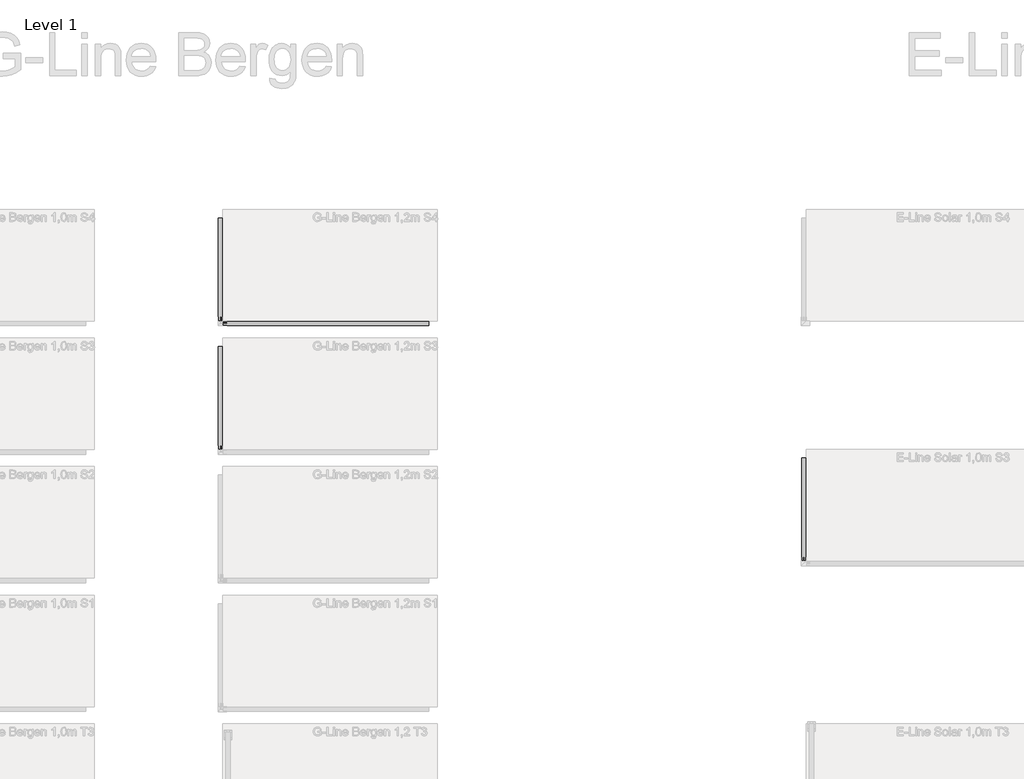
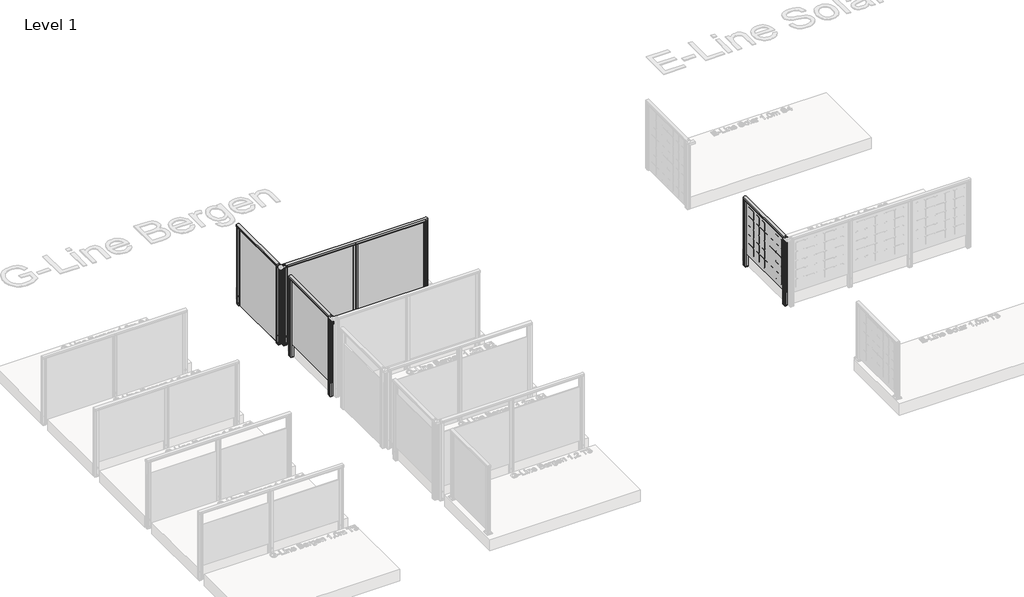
# One storey, part 29 of 66: 4 railings.
"""IFC4 building model written with IfcOpenShell, lengths in millimetres."""

from ifc_helpers import new_model, si_unit, point, frame, frame_2d, origin, place, context, project, spatial, polyline, circle_curve, trimmed, segment, composite_curve, outline, extrude, element, save

model = new_model("IFC4")

# Units and contexts
model_context = context("Model", 3, world=origin())
ifc_project = project(units=[si_unit("LENGTHUNIT", "METRE", prefix="MILLI")], contexts=[model_context])

# Site, building, storey
site = spatial("IfcSite", under=ifc_project)
building = spatial("IfcBuilding", under=site)
storey = spatial("IfcBuildingStorey", under=building, Name="Level 1", Elevation=0.0)

# Railings
placement = place(None, origin())
element("IfcRailing", 1, ObjectType="G-Line Bergen 1,2m S3", at=placement, inside=storey, context=model_context, shape_type="SweptSolid", body=[
    extrude(outline(composite_curve([segment(trimmed(circle_curve(frame_2d((1142.6785502, 8465.8109342)), 57.3235687), [point((1194.1390059, 8491.0658945))], [point((1194.1342258, 8440.5462362))], False, "CARTESIAN"), True, "CONTINUOUS"), segment(polyline([(1194.1342258, 8440.5462362), (1167.0235023, 8440.5462362), (1166.4415706, 8441.128168), (1165.8194895, 8440.5060869), (1157.2498847, 8440.5060869), (1157.2498847, 8442.3110398), (1180.4998829, 8442.3110398), (1180.4998829, 8489.306086), (1157.2498847, 8489.306086), (1157.2498847, 8491.0658945), (1165.9694895, 8491.0658945), (1166.5842725, 8490.4511115), (1167.1990555, 8491.0658945), (1194.1390059, 8491.0658945)]), True, "CONTINUOUS")], self_intersect=False)), frame((0.0, 1523.8815979, 0.0), z_axis=(0.0, 1.0, 0.0), x_axis=(0.0, 0.0, 1.0)), (0.0, 0.0, 1.0), 1195.0),
    extrude(outline(polyline([(8462.1463105, 2718.8815979), (8470.9063105, 2718.8815979), (8470.9063105, 1523.8815979), (8462.1463105, 1523.8815979), (8462.1463105, 2718.8815979)])), frame((0.0, 0.0, 28.0), z_axis=(0.0, 0.0, 1.0), x_axis=(1.0, 0.0, 0.0)), (0.0, 0.0, 1.0), 1152.0),
    extrude(outline(polyline([(8470.8721725, 1523.883191), (8470.8747497, 1541.3831908), (8462.1147498, 1541.3844809), (8462.1121726, 1523.8844811), (8444.0573652, 1523.88714), (8444.0616532, 1553.004127), (8444.9400753, 1553.8822904), (8444.021743, 1554.9201583), (8444.0260089, 1583.8871452), (8462.1210087, 1583.8844804), (8462.1184315, 1566.3844806), (8470.8784314, 1566.3831905), (8470.8810086, 1583.8831903), (8488.9859597, 1583.880524), (8488.9816865, 1554.8640485), (8487.9932969, 1553.87595), (8489.0214382, 1552.8475058), (8489.0171723, 1523.8805188), (8470.8721725, 1523.883191)]), holes=[polyline([(8446.0202949, 1562.6808129), (8446.0202949, 1545.0868512), (8487.0228863, 1545.0868512), (8487.0228863, 1562.6808129), (8446.0202949, 1562.6808129)]), polyline([(8472.878181, 1581.8808127), (8472.878181, 1564.682896), (8487.0257139, 1564.682896), (8487.0257139, 1581.8808127), (8472.878181, 1581.8808127)]), polyline([(8446.0202949, 1581.884775), (8446.0202949, 1564.6868513), (8460.1207142, 1564.6868513), (8460.1207142, 1581.884775), (8446.0202949, 1581.884775)]), polyline([(8472.872467, 1543.0808132), (8472.872467, 1525.8828965), (8487.0199999, 1525.8828965), (8487.0199999, 1543.0808132), (8472.872467, 1543.0808132)]), polyline([(8445.9674673, 1543.0847754), (8445.9674673, 1525.8868587), (8460.1150002, 1525.8868587), (8460.1150002, 1543.0847754), (8445.9674673, 1543.0847754)])]), frame((0.0, 0.0, -200.0), z_axis=(0.0, 0.0, 1.0), x_axis=(1.0, 0.0, 0.0)), (0.0, 0.0, 1.0), 1381.0),
    extrude(outline(polyline([(8470.8721725, 1523.883191), (8470.8747497, 1541.3831908), (8462.1147498, 1541.3844809), (8462.1121726, 1523.8844811), (8444.0573652, 1523.88714), (8444.0616532, 1553.004127), (8444.9400753, 1553.8822904), (8444.021743, 1554.9201583), (8444.0260089, 1583.8871452), (8462.1210087, 1583.8844804), (8462.1184315, 1566.3844806), (8470.8784314, 1566.3831905), (8470.8810086, 1583.8831903), (8488.9859597, 1583.880524), (8488.9816865, 1554.8640485), (8487.9932969, 1553.87595), (8489.0214382, 1552.8475058), (8489.0171723, 1523.8805188), (8470.8721725, 1523.883191)])), frame((0.0, 0.0, -202.0233958), z_axis=(0.0, 0.0, 1.0), x_axis=(1.0, 0.0, 0.0)), (0.0, 0.0, 1.0), 2.0),
    extrude(outline(composite_curve([segment(trimmed(circle_curve(frame_2d((0.0, 12.0)), 12.0), [point((0.0, 23.9999999))], [point((0.0, 0.0))], False, "CARTESIAN"), True, "CONTINUOUS"), segment(trimmed(circle_curve(frame_2d((0.0, 12.0)), 12.0), [point((0.0, 0.0))], [point((0.0, 23.9999999))], False, "CARTESIAN"), True, "CONTINUOUS")], self_intersect=False)), frame((8444.0668454, 1565.8906355, -175.0), z_axis=(-0.9999999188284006, 0.0004029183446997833, 0.0), x_axis=(0.0, 0.0, -1.0)), (0.0, 0.0, 1.0), 3.0757477),
    extrude(outline(composite_curve([segment(trimmed(circle_curve(frame_2d((0.0, 12.0)), 12.0), [point((0.0, 23.9999999))], [point((0.0, 0.0))], False, "CARTESIAN"), True, "CONTINUOUS"), segment(trimmed(circle_curve(frame_2d((0.0, 12.0)), 12.0), [point((0.0, 0.0))], [point((0.0, 23.9999999))], False, "CARTESIAN"), True, "CONTINUOUS")], self_intersect=False)), frame((8444.0668454, 1565.8906355, -50.0), z_axis=(-0.9999999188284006, 0.0004029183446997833, 0.0), x_axis=(0.0, 0.0, -1.0)), (0.0, 0.0, 1.0), 3.0757477),
    extrude(outline(polyline([(8470.8721725, 2658.883191), (8470.8747497, 2676.3831908), (8462.1147498, 2676.3844809), (8462.1121726, 2658.8844811), (8444.0573652, 2658.88714), (8444.0616532, 2688.004127), (8444.9400753, 2688.8822904), (8444.021743, 2689.9201583), (8444.0260089, 2718.8871452), (8462.1210087, 2718.8844804), (8462.1184315, 2701.3844806), (8470.8784314, 2701.3831905), (8470.8810086, 2718.8831903), (8488.9859597, 2718.880524), (8488.9816865, 2689.8640485), (8487.9932969, 2688.87595), (8489.0214382, 2687.8475058), (8489.0171723, 2658.8805188), (8470.8721725, 2658.883191)]), holes=[polyline([(8446.0202949, 2697.6808129), (8446.0202949, 2680.0868512), (8487.0228863, 2680.0868512), (8487.0228863, 2697.6808129), (8446.0202949, 2697.6808129)]), polyline([(8472.878181, 2716.8808127), (8472.878181, 2699.682896), (8487.0257139, 2699.682896), (8487.0257139, 2716.8808127), (8472.878181, 2716.8808127)]), polyline([(8446.0202949, 2716.884775), (8446.0202949, 2699.6868513), (8460.1207142, 2699.6868513), (8460.1207142, 2716.884775), (8446.0202949, 2716.884775)]), polyline([(8472.872467, 2678.0808132), (8472.872467, 2660.8828965), (8487.0199999, 2660.8828965), (8487.0199999, 2678.0808132), (8472.872467, 2678.0808132)]), polyline([(8445.9674673, 2678.0847754), (8445.9674673, 2660.8868587), (8460.1150002, 2660.8868587), (8460.1150002, 2678.0847754), (8445.9674673, 2678.0847754)])]), frame((0.0, 0.0, -200.0), z_axis=(0.0, 0.0, 1.0), x_axis=(1.0, 0.0, 0.0)), (0.0, 0.0, 1.0), 1381.0),
    extrude(outline(polyline([(8470.8721725, 2658.883191), (8470.8747497, 2676.3831908), (8462.1147498, 2676.3844809), (8462.1121726, 2658.8844811), (8444.0573652, 2658.88714), (8444.0616532, 2688.004127), (8444.9400753, 2688.8822904), (8444.021743, 2689.9201583), (8444.0260089, 2718.8871452), (8462.1210087, 2718.8844804), (8462.1184315, 2701.3844806), (8470.8784314, 2701.3831905), (8470.8810086, 2718.8831903), (8488.9859597, 2718.880524), (8488.9816865, 2689.8640485), (8487.9932969, 2688.87595), (8489.0214382, 2687.8475058), (8489.0171723, 2658.8805188), (8470.8721725, 2658.883191)])), frame((0.0, 0.0, -202.0233958), z_axis=(0.0, 0.0, 1.0), x_axis=(1.0, 0.0, 0.0)), (0.0, 0.0, 1.0), 2.0),
    extrude(outline(composite_curve([segment(trimmed(circle_curve(frame_2d((0.0, 12.0)), 12.0), [point((0.0, 23.9999999))], [point((0.0, 0.0))], False, "CARTESIAN"), True, "CONTINUOUS"), segment(trimmed(circle_curve(frame_2d((0.0, 12.0)), 12.0), [point((0.0, 0.0))], [point((0.0, 23.9999999))], False, "CARTESIAN"), True, "CONTINUOUS")], self_intersect=False)), frame((8444.0668454, 2700.8906355, -175.0), z_axis=(-0.9999999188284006, 0.0004029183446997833, 0.0), x_axis=(0.0, 0.0, -1.0)), (0.0, 0.0, 1.0), 3.0757477),
    extrude(outline(composite_curve([segment(trimmed(circle_curve(frame_2d((0.0, 12.0)), 12.0), [point((0.0, 23.9999999))], [point((0.0, 0.0))], False, "CARTESIAN"), True, "CONTINUOUS"), segment(trimmed(circle_curve(frame_2d((0.0, 12.0)), 12.0), [point((0.0, 0.0))], [point((0.0, 23.9999999))], False, "CARTESIAN"), True, "CONTINUOUS")], self_intersect=False)), frame((8444.0668454, 2700.8906355, -50.0), z_axis=(-0.9999999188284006, 0.0004029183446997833, 0.0), x_axis=(0.0, 0.0, -1.0)), (0.0, 0.0, 1.0), 3.0757477),
])
element("IfcRailing", 2, ObjectType="G-Line Bergen 1,2m S4", at=placement, inside=storey, context=model_context, shape_type="SweptSolid", body=[
    extrude(outline(composite_curve([segment(trimmed(circle_curve(frame_2d((1142.6785502, 8465.8109342)), 57.3235687), [point((1194.1390059, 8491.0658945))], [point((1194.1342258, 8440.5462362))], False, "CARTESIAN"), True, "CONTINUOUS"), segment(polyline([(1194.1342258, 8440.5462362), (1167.0235023, 8440.5462362), (1166.4415706, 8441.128168), (1165.8194895, 8440.5060869), (1157.2498847, 8440.5060869), (1157.2498847, 8442.3110398), (1180.4998829, 8442.3110398), (1180.4998829, 8489.306086), (1157.2498847, 8489.306086), (1157.2498847, 8491.0658945), (1165.9694895, 8491.0658945), (1166.5842725, 8490.4511115), (1167.1990555, 8491.0658945), (1194.1390059, 8491.0658945)]), True, "CONTINUOUS")], self_intersect=False)), frame((0.0, 3023.8815979, 0.0), z_axis=(0.0, 1.0, 0.0), x_axis=(0.0, 0.0, 1.0)), (0.0, 0.0, 1.0), 1195.0),
    extrude(outline(polyline([(8465.6306934, 4218.8815979), (8467.4943763, 4218.8815979), (8467.4943763, 3023.8815979), (8465.6306934, 3023.8815979), (8465.6306934, 4218.8815979)])), frame((0.0, 0.0, -200.0), z_axis=(0.0, 0.0, 1.0), x_axis=(1.0, 0.0, 0.0)), (0.0, 0.0, 1.0), 1.1703418),
    extrude(outline(polyline([(8462.1463105, 4218.8815979), (8470.9063105, 4218.8815979), (8470.9063105, 3023.8815979), (8462.1463105, 3023.8815979), (8462.1463105, 4218.8815979)])), frame((0.0, 0.0, -200.0), z_axis=(0.0, 0.0, 1.0), x_axis=(1.0, 0.0, 0.0)), (0.0, 0.0, 1.0), 1380.0),
    extrude(outline(polyline([(8470.8721725, 3023.883191), (8470.8747497, 3041.3831908), (8462.1147498, 3041.3844809), (8462.1121726, 3023.8844811), (8444.0573652, 3023.88714), (8444.0616532, 3053.004127), (8444.9400753, 3053.8822904), (8444.021743, 3054.9201583), (8444.0260089, 3083.8871452), (8462.1210087, 3083.8844804), (8462.1184315, 3066.3844806), (8470.8784314, 3066.3831905), (8470.8810086, 3083.8831903), (8488.9859597, 3083.880524), (8488.9816865, 3054.8640485), (8487.9932969, 3053.87595), (8489.0214382, 3052.8475058), (8489.0171723, 3023.8805188), (8470.8721725, 3023.883191)]), holes=[polyline([(8446.0202949, 3062.6808129), (8446.0202949, 3045.0868512), (8487.0228863, 3045.0868512), (8487.0228863, 3062.6808129), (8446.0202949, 3062.6808129)]), polyline([(8472.878181, 3081.8808127), (8472.878181, 3064.682896), (8487.0257139, 3064.682896), (8487.0257139, 3081.8808127), (8472.878181, 3081.8808127)]), polyline([(8446.0202949, 3081.884775), (8446.0202949, 3064.6868513), (8460.1207142, 3064.6868513), (8460.1207142, 3081.884775), (8446.0202949, 3081.884775)]), polyline([(8472.872467, 3043.0808132), (8472.872467, 3025.8828965), (8487.0199999, 3025.8828965), (8487.0199999, 3043.0808132), (8472.872467, 3043.0808132)]), polyline([(8445.9674673, 3043.0847754), (8445.9674673, 3025.8868587), (8460.1150002, 3025.8868587), (8460.1150002, 3043.0847754), (8445.9674673, 3043.0847754)])]), frame((0.0, 0.0, -200.0), z_axis=(0.0, 0.0, 1.0), x_axis=(1.0, 0.0, 0.0)), (0.0, 0.0, 1.0), 1381.0),
    extrude(outline(polyline([(8470.8721725, 3023.883191), (8470.8747497, 3041.3831908), (8462.1147498, 3041.3844809), (8462.1121726, 3023.8844811), (8444.0573652, 3023.88714), (8444.0616532, 3053.004127), (8444.9400753, 3053.8822904), (8444.021743, 3054.9201583), (8444.0260089, 3083.8871452), (8462.1210087, 3083.8844804), (8462.1184315, 3066.3844806), (8470.8784314, 3066.3831905), (8470.8810086, 3083.8831903), (8488.9859597, 3083.880524), (8488.9816865, 3054.8640485), (8487.9932969, 3053.87595), (8489.0214382, 3052.8475058), (8489.0171723, 3023.8805188), (8470.8721725, 3023.883191)])), frame((0.0, 0.0, -202.0233958), z_axis=(0.0, 0.0, 1.0), x_axis=(1.0, 0.0, 0.0)), (0.0, 0.0, 1.0), 2.0),
    extrude(outline(composite_curve([segment(trimmed(circle_curve(frame_2d((0.0, 12.0)), 12.0), [point((0.0, 23.9999999))], [point((0.0, 0.0))], False, "CARTESIAN"), True, "CONTINUOUS"), segment(trimmed(circle_curve(frame_2d((0.0, 12.0)), 12.0), [point((0.0, 0.0))], [point((0.0, 23.9999999))], False, "CARTESIAN"), True, "CONTINUOUS")], self_intersect=False)), frame((8444.0668454, 3065.8906355, -175.0), z_axis=(-0.9999999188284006, 0.0004029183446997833, 0.0), x_axis=(0.0, 0.0, -1.0)), (0.0, 0.0, 1.0), 3.0757477),
    extrude(outline(composite_curve([segment(trimmed(circle_curve(frame_2d((0.0, 12.0)), 12.0), [point((0.0, 23.9999999))], [point((0.0, 0.0))], False, "CARTESIAN"), True, "CONTINUOUS"), segment(trimmed(circle_curve(frame_2d((0.0, 12.0)), 12.0), [point((0.0, 0.0))], [point((0.0, 23.9999999))], False, "CARTESIAN"), True, "CONTINUOUS")], self_intersect=False)), frame((8444.0668454, 3065.8906355, -50.0), z_axis=(-0.9999999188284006, 0.0004029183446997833, 0.0), x_axis=(0.0, 0.0, -1.0)), (0.0, 0.0, 1.0), 3.0757477),
    extrude(outline(polyline([(8470.8721725, 4158.883191), (8470.8747497, 4176.3831908), (8462.1147498, 4176.3844809), (8462.1121726, 4158.8844811), (8444.0573652, 4158.88714), (8444.0616532, 4188.004127), (8444.9400753, 4188.8822904), (8444.021743, 4189.9201583), (8444.0260089, 4218.8871452), (8462.1210087, 4218.8844804), (8462.1184315, 4201.3844806), (8470.8784314, 4201.3831905), (8470.8810086, 4218.8831903), (8488.9859597, 4218.880524), (8488.9816865, 4189.8640485), (8487.9932969, 4188.87595), (8489.0214382, 4187.8475058), (8489.0171723, 4158.8805188), (8470.8721725, 4158.883191)]), holes=[polyline([(8446.0202949, 4197.6808129), (8446.0202949, 4180.0868512), (8487.0228863, 4180.0868512), (8487.0228863, 4197.6808129), (8446.0202949, 4197.6808129)]), polyline([(8472.878181, 4216.8808127), (8472.878181, 4199.682896), (8487.0257139, 4199.682896), (8487.0257139, 4216.8808127), (8472.878181, 4216.8808127)]), polyline([(8446.0202949, 4216.884775), (8446.0202949, 4199.6868513), (8460.1207142, 4199.6868513), (8460.1207142, 4216.884775), (8446.0202949, 4216.884775)]), polyline([(8472.872467, 4178.0808132), (8472.872467, 4160.8828965), (8487.0199999, 4160.8828965), (8487.0199999, 4178.0808132), (8472.872467, 4178.0808132)]), polyline([(8445.9674673, 4178.0847754), (8445.9674673, 4160.8868587), (8460.1150002, 4160.8868587), (8460.1150002, 4178.0847754), (8445.9674673, 4178.0847754)])]), frame((0.0, 0.0, -200.0), z_axis=(0.0, 0.0, 1.0), x_axis=(1.0, 0.0, 0.0)), (0.0, 0.0, 1.0), 1381.0),
    extrude(outline(polyline([(8470.8721725, 4158.883191), (8470.8747497, 4176.3831908), (8462.1147498, 4176.3844809), (8462.1121726, 4158.8844811), (8444.0573652, 4158.88714), (8444.0616532, 4188.004127), (8444.9400753, 4188.8822904), (8444.021743, 4189.9201583), (8444.0260089, 4218.8871452), (8462.1210087, 4218.8844804), (8462.1184315, 4201.3844806), (8470.8784314, 4201.3831905), (8470.8810086, 4218.8831903), (8488.9859597, 4218.880524), (8488.9816865, 4189.8640485), (8487.9932969, 4188.87595), (8489.0214382, 4187.8475058), (8489.0171723, 4158.8805188), (8470.8721725, 4158.883191)])), frame((0.0, 0.0, -202.0233958), z_axis=(0.0, 0.0, 1.0), x_axis=(1.0, 0.0, 0.0)), (0.0, 0.0, 1.0), 2.0),
    extrude(outline(composite_curve([segment(trimmed(circle_curve(frame_2d((0.0, 12.0)), 12.0), [point((0.0, 23.9999999))], [point((0.0, 0.0))], False, "CARTESIAN"), True, "CONTINUOUS"), segment(trimmed(circle_curve(frame_2d((0.0, 12.0)), 12.0), [point((0.0, 0.0))], [point((0.0, 23.9999999))], False, "CARTESIAN"), True, "CONTINUOUS")], self_intersect=False)), frame((8444.0668454, 4200.8906355, -175.0), z_axis=(-0.9999999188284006, 0.0004029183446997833, 0.0), x_axis=(0.0, 0.0, -1.0)), (0.0, 0.0, 1.0), 3.0757477),
    extrude(outline(composite_curve([segment(trimmed(circle_curve(frame_2d((0.0, 12.0)), 12.0), [point((0.0, 23.9999999))], [point((0.0, 0.0))], False, "CARTESIAN"), True, "CONTINUOUS"), segment(trimmed(circle_curve(frame_2d((0.0, 12.0)), 12.0), [point((0.0, 0.0))], [point((0.0, 23.9999999))], False, "CARTESIAN"), True, "CONTINUOUS")], self_intersect=False)), frame((8444.0668454, 4200.8906355, -50.0), z_axis=(-0.9999999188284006, 0.0004029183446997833, 0.0), x_axis=(0.0, 0.0, -1.0)), (0.0, 0.0, 1.0), 3.0757477),
])
element("IfcRailing", 3, ObjectType="G-Line Bergen 1,2m S4", at=placement, inside=storey, context=model_context, shape_type="SweptSolid", body=[
    extrude(outline(composite_curve([segment(polyline([(3013.4211819, 1194.1390059), (3013.4211819, 1167.1990555), (3012.8063989, 1166.5842725), (3013.4211819, 1165.9694895), (3013.4211819, 1157.2498847), (3011.6613734, 1157.2498847), (3011.6613734, 1180.4998829), (2964.6663272, 1180.4998829), (2964.6663272, 1157.2498847), (2962.8613743, 1157.2498847), (2962.8613743, 1165.8194895), (2963.4834554, 1166.4415706), (2962.9015237, 1167.0235023), (2962.9015237, 1194.1342258)]), True, "CONTINUOUS"), segment(trimmed(circle_curve(frame_2d((2988.1662216, 1142.6785502)), 57.3235687), [point((2962.9015237, 1194.1342258))], [point((3013.4211819, 1194.1390059))], False, "CARTESIAN"), True, "CONTINUOUS")], self_intersect=False)), frame((8501.5263105, 0.0, 0.0), z_axis=(1.0, 0.0, 0.0), x_axis=(0.0, 1.0, 0.0)), (0.0, 0.0, 1.0), 2395.0),
    extrude(outline(polyline([(8501.5263105, 2987.9859808), (8501.5263105, 2989.8496637), (10896.5263105, 2989.8496637), (10896.5263105, 2987.9859808), (8501.5263105, 2987.9859808)])), frame((0.0, 0.0, -200.0), z_axis=(0.0, 0.0, 1.0), x_axis=(1.0, 0.0, 0.0)), (0.0, 0.0, 1.0), 1.1703418),
    extrude(outline(polyline([(8501.5263105, 2984.5015979), (8501.5263105, 2993.2615979), (10896.5263105, 2993.2615979), (10896.5263105, 2984.5015979), (8501.5263105, 2984.5015979)])), frame((0.0, 0.0, -200.0), z_axis=(0.0, 0.0, 1.0), x_axis=(1.0, 0.0, 0.0)), (0.0, 0.0, 1.0), 1380.0),
    extrude(outline(polyline([(9729.0247174, 2993.2274599), (9711.5247176, 2993.2300371), (9711.5234275, 2984.4700372), (9729.0234273, 2984.46746), (9729.0207684, 2966.4126526), (9699.9037815, 2966.4169406), (9699.025618, 2967.2953627), (9697.9877501, 2966.3770304), (9669.0207632, 2966.3812963), (9669.023428, 2984.4762961), (9686.5234278, 2984.4737189), (9686.5247179, 2993.2337188), (9669.0247181, 2993.236296), (9669.0273844, 3011.3412471), (9698.0438599, 3011.3369739), (9699.0319584, 3010.3485843), (9700.0604026, 3011.3767256), (9729.0273896, 3011.3724597), (9729.0247174, 2993.2274599)]), holes=[polyline([(9690.2270955, 2968.3755823), (9707.8210573, 2968.3755823), (9707.8210573, 3009.3781738), (9690.2270955, 3009.3781738), (9690.2270955, 2968.3755823)]), polyline([(9671.0270957, 2995.2334684), (9688.2250124, 2995.2334684), (9688.2250124, 3009.3810013), (9671.0270957, 3009.3810013), (9671.0270957, 2995.2334684)]), polyline([(9671.0231335, 2968.3755823), (9688.2210571, 2968.3755823), (9688.2210571, 2982.4760016), (9671.0231335, 2982.4760016), (9671.0231335, 2968.3755823)]), polyline([(9709.8270953, 2995.2277544), (9727.025012, 2995.2277544), (9727.025012, 3009.3752873), (9709.8270953, 3009.3752873), (9709.8270953, 2995.2277544)]), polyline([(9709.823133, 2968.3227547), (9727.0210497, 2968.3227547), (9727.0210497, 2982.4702876), (9709.823133, 2982.4702876), (9709.823133, 2968.3227547)])]), frame((0.0, 0.0, -200.0), z_axis=(0.0, 0.0, 1.0), x_axis=(1.0, 0.0, 0.0)), (0.0, 0.0, 1.0), 1381.0),
    extrude(outline(polyline([(9729.0247174, 2993.2274599), (9711.5247176, 2993.2300371), (9711.5234275, 2984.4700372), (9729.0234273, 2984.46746), (9729.0207684, 2966.4126526), (9699.9037815, 2966.4169406), (9699.025618, 2967.2953627), (9697.9877501, 2966.3770304), (9669.0207632, 2966.3812963), (9669.023428, 2984.4762961), (9686.5234278, 2984.4737189), (9686.5247179, 2993.2337188), (9669.0247181, 2993.236296), (9669.0273844, 3011.3412471), (9698.0438599, 3011.3369739), (9699.0319584, 3010.3485843), (9700.0604026, 3011.3767256), (9729.0273896, 3011.3724597), (9729.0247174, 2993.2274599)])), frame((0.0, 0.0, -202.0233958), z_axis=(0.0, 0.0, 1.0), x_axis=(1.0, 0.0, 0.0)), (0.0, 0.0, 1.0), 2.0),
    extrude(outline(composite_curve([segment(trimmed(circle_curve(frame_2d((0.0, 12.0000001)), 12.0), [point((0.0, 24.0))], [point((0.0, 0.0))], False, "CARTESIAN"), True, "CONTINUOUS"), segment(trimmed(circle_curve(frame_2d((0.0, 12.0000001)), 12.0), [point((0.0, 0.0))], [point((0.0, 24.0))], False, "CARTESIAN"), True, "CONTINUOUS")], self_intersect=False)), frame((9687.0160336, 2963.3463854, -175.0), z_axis=(0.00040291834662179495, 0.9999999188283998, 0.0), x_axis=(0.0, 0.0, 1.0)), (0.0, 0.0, 1.0), 3.0757477),
    extrude(outline(composite_curve([segment(trimmed(circle_curve(frame_2d((0.0, 12.0000001)), 12.0), [point((0.0, 24.0))], [point((0.0, 0.0))], False, "CARTESIAN"), True, "CONTINUOUS"), segment(trimmed(circle_curve(frame_2d((0.0, 12.0000001)), 12.0), [point((0.0, 0.0))], [point((0.0, 24.0))], False, "CARTESIAN"), True, "CONTINUOUS")], self_intersect=False)), frame((9687.0160336, 2963.3463854, -50.0), z_axis=(0.00040291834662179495, 0.9999999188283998, 0.0), x_axis=(0.0, 0.0, 1.0)), (0.0, 0.0, 1.0), 3.0757477),
    extrude(outline(polyline([(10896.5247174, 2993.2274599), (10879.0247176, 2993.2300371), (10879.0234275, 2984.4700372), (10896.5234273, 2984.46746), (10896.5207684, 2966.4126526), (10867.4037815, 2966.4169406), (10866.525618, 2967.2953627), (10865.4877501, 2966.3770304), (10836.5207632, 2966.3812963), (10836.523428, 2984.4762961), (10854.0234278, 2984.4737189), (10854.0247179, 2993.2337188), (10836.5247181, 2993.236296), (10836.5273844, 3011.3412471), (10865.5438599, 3011.3369739), (10866.5319584, 3010.3485843), (10867.5604026, 3011.3767256), (10896.5273896, 3011.3724597), (10896.5247174, 2993.2274599)]), holes=[polyline([(10857.7270955, 2968.3755823), (10875.3210573, 2968.3755823), (10875.3210573, 3009.3781737), (10857.7270955, 3009.3781737), (10857.7270955, 2968.3755823)]), polyline([(10838.5270957, 2995.2334684), (10855.7250124, 2995.2334684), (10855.7250124, 3009.3810013), (10838.5270957, 3009.3810013), (10838.5270957, 2995.2334684)]), polyline([(10838.5231335, 2968.3755823), (10855.7210571, 2968.3755823), (10855.7210571, 2982.4760016), (10838.5231335, 2982.4760016), (10838.5231335, 2968.3755823)]), polyline([(10877.3270953, 2995.2277544), (10894.525012, 2995.2277544), (10894.525012, 3009.3752873), (10877.3270953, 3009.3752873), (10877.3270953, 2995.2277544)]), polyline([(10877.323133, 2968.3227547), (10894.5210497, 2968.3227547), (10894.5210497, 2982.4702876), (10877.323133, 2982.4702876), (10877.323133, 2968.3227547)])]), frame((0.0, 0.0, -200.0), z_axis=(0.0, 0.0, 1.0), x_axis=(1.0, 0.0, 0.0)), (0.0, 0.0, 1.0), 1381.0),
    extrude(outline(polyline([(10896.5247174, 2993.2274599), (10879.0247176, 2993.2300371), (10879.0234275, 2984.4700372), (10896.5234273, 2984.46746), (10896.5207684, 2966.4126526), (10867.4037815, 2966.4169406), (10866.525618, 2967.2953627), (10865.4877501, 2966.3770304), (10836.5207632, 2966.3812963), (10836.523428, 2984.4762961), (10854.0234278, 2984.4737189), (10854.0247179, 2993.2337188), (10836.5247181, 2993.236296), (10836.5273844, 3011.3412471), (10865.5438599, 3011.3369739), (10866.5319584, 3010.3485843), (10867.5604026, 3011.3767256), (10896.5273896, 3011.3724597), (10896.5247174, 2993.2274599)])), frame((0.0, 0.0, -202.0233958), z_axis=(0.0, 0.0, 1.0), x_axis=(1.0, 0.0, 0.0)), (0.0, 0.0, 1.0), 2.0),
    extrude(outline(composite_curve([segment(trimmed(circle_curve(frame_2d((0.0, 12.0000001)), 12.0), [point((0.0, 24.0))], [point((0.0, 0.0))], False, "CARTESIAN"), True, "CONTINUOUS"), segment(trimmed(circle_curve(frame_2d((0.0, 12.0000001)), 12.0), [point((0.0, 0.0))], [point((0.0, 24.0))], False, "CARTESIAN"), True, "CONTINUOUS")], self_intersect=False)), frame((10854.5160336, 2963.3463854, -175.0), z_axis=(0.00040291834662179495, 0.9999999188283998, 0.0), x_axis=(0.0, 0.0, 1.0)), (0.0, 0.0, 1.0), 3.0757477),
    extrude(outline(composite_curve([segment(trimmed(circle_curve(frame_2d((0.0, 12.0000001)), 12.0), [point((0.0, 24.0))], [point((0.0, 0.0))], False, "CARTESIAN"), True, "CONTINUOUS"), segment(trimmed(circle_curve(frame_2d((0.0, 12.0000001)), 12.0), [point((0.0, 0.0))], [point((0.0, 24.0))], False, "CARTESIAN"), True, "CONTINUOUS")], self_intersect=False)), frame((10854.5160336, 2963.3463854, -50.0), z_axis=(0.00040291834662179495, 0.9999999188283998, 0.0), x_axis=(0.0, 0.0, 1.0)), (0.0, 0.0, 1.0), 3.0757477),
    extrude(outline(polyline([(8561.5247174, 2993.2274599), (8544.0247176, 2993.2300371), (8544.0234275, 2984.4700372), (8561.5234273, 2984.46746), (8561.5207684, 2966.4126526), (8532.4037815, 2966.4169406), (8531.525618, 2967.2953627), (8530.4877501, 2966.3770304), (8501.5207632, 2966.3812963), (8501.523428, 2984.4762961), (8519.0234278, 2984.4737189), (8519.0247179, 2993.2337188), (8501.5247181, 2993.236296), (8501.5273844, 3011.3412471), (8530.5438599, 3011.3369739), (8531.5319584, 3010.3485843), (8532.5604026, 3011.3767256), (8561.5273896, 3011.3724597), (8561.5247174, 2993.2274599)]), holes=[polyline([(8522.7270955, 2968.3755823), (8540.3210573, 2968.3755823), (8540.3210573, 3009.3781738), (8522.7270955, 3009.3781738), (8522.7270955, 2968.3755823)]), polyline([(8503.5270957, 2995.2334684), (8520.7250124, 2995.2334684), (8520.7250124, 3009.3810013), (8503.5270957, 3009.3810013), (8503.5270957, 2995.2334684)]), polyline([(8503.5231335, 2968.3755823), (8520.7210571, 2968.3755823), (8520.7210571, 2982.4760016), (8503.5231335, 2982.4760016), (8503.5231335, 2968.3755823)]), polyline([(8542.3270953, 2995.2277544), (8559.525012, 2995.2277544), (8559.525012, 3009.3752873), (8542.3270953, 3009.3752873), (8542.3270953, 2995.2277544)]), polyline([(8542.323133, 2968.3227547), (8559.5210497, 2968.3227547), (8559.5210497, 2982.4702876), (8542.323133, 2982.4702876), (8542.323133, 2968.3227547)])]), frame((0.0, 0.0, -200.0), z_axis=(0.0, 0.0, 1.0), x_axis=(1.0, 0.0, 0.0)), (0.0, 0.0, 1.0), 1381.0),
    extrude(outline(polyline([(8561.5247174, 2993.2274599), (8544.0247176, 2993.2300371), (8544.0234275, 2984.4700372), (8561.5234273, 2984.46746), (8561.5207684, 2966.4126526), (8532.4037815, 2966.4169406), (8531.525618, 2967.2953627), (8530.4877501, 2966.3770304), (8501.5207632, 2966.3812963), (8501.523428, 2984.4762961), (8519.0234278, 2984.4737189), (8519.0247179, 2993.2337188), (8501.5247181, 2993.236296), (8501.5273844, 3011.3412471), (8530.5438599, 3011.3369739), (8531.5319584, 3010.3485843), (8532.5604026, 3011.3767256), (8561.5273896, 3011.3724597), (8561.5247174, 2993.2274599)])), frame((0.0, 0.0, -202.0233958), z_axis=(0.0, 0.0, 1.0), x_axis=(1.0, 0.0, 0.0)), (0.0, 0.0, 1.0), 2.0),
    extrude(outline(composite_curve([segment(trimmed(circle_curve(frame_2d((0.0, 12.0000001)), 12.0), [point((0.0, 24.0))], [point((0.0, 0.0))], False, "CARTESIAN"), True, "CONTINUOUS"), segment(trimmed(circle_curve(frame_2d((0.0, 12.0000001)), 12.0), [point((0.0, 0.0))], [point((0.0, 24.0))], False, "CARTESIAN"), True, "CONTINUOUS")], self_intersect=False)), frame((8519.5160336, 2963.3463854, -175.0), z_axis=(0.00040291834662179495, 0.9999999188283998, 0.0), x_axis=(0.0, 0.0, 1.0)), (0.0, 0.0, 1.0), 3.0757477),
    extrude(outline(composite_curve([segment(trimmed(circle_curve(frame_2d((0.0, 12.0000001)), 12.0), [point((0.0, 24.0))], [point((0.0, 0.0))], False, "CARTESIAN"), True, "CONTINUOUS"), segment(trimmed(circle_curve(frame_2d((0.0, 12.0000001)), 12.0), [point((0.0, 0.0))], [point((0.0, 24.0))], False, "CARTESIAN"), True, "CONTINUOUS")], self_intersect=False)), frame((8519.5160336, 2963.3463854, -50.0), z_axis=(0.00040291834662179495, 0.9999999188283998, 0.0), x_axis=(0.0, 0.0, 1.0)), (0.0, 0.0, 1.0), 3.0757477),
])
element("IfcRailing", 4, ObjectType="E-Line Solar 1,0m S3 6 columns of solar elements", at=placement, inside=storey, context=model_context, shape_type="SweptSolid", body=[
    extrude(outline(composite_curve([segment(trimmed(circle_curve(frame_2d((942.6785502, 15265.8109342)), 57.3235687), [point((994.1390059, 15291.0658945))], [point((994.1342258, 15240.5462362))], False, "CARTESIAN"), True, "CONTINUOUS"), segment(polyline([(994.1342258, 15240.5462362), (967.0235023, 15240.5462362), (966.4415706, 15241.128168), (965.8194895, 15240.5060869), (957.2498847, 15240.5060869), (957.2498847, 15242.3110398), (980.4998829, 15242.3110398), (980.4998829, 15289.306086), (957.2498847, 15289.306086), (957.2498847, 15291.0658945), (965.9694895, 15291.0658945), (966.5842725, 15290.4511115), (967.1990555, 15291.0658945), (994.1390059, 15291.0658945)]), True, "CONTINUOUS")], self_intersect=False)), frame((0.0, 223.8815979, 0.0), z_axis=(0.0, 1.0, 0.0), x_axis=(0.0, 0.0, 1.0)), (0.0, 0.0, 1.0), 1195.0),
    extrude(outline(polyline([(15262.1463105, 1418.8815979), (15270.9063105, 1418.8815979), (15270.9063105, 223.8815979), (15262.1463105, 223.8815979), (15262.1463105, 1418.8815979)])), frame((0.0, 0.0, 28.0), z_axis=(0.0, 0.0, 1.0), x_axis=(1.0, 0.0, 0.0)), (0.0, 0.0, 1.0), 952.0),
    extrude(outline(polyline([(0.0, 0.0), (-16.036927, 16.036927), (-16.036927, 139.963073), (0.0, 156.0), (123.9261459, 156.0), (139.963073, 139.963073), (139.963073, 16.036927), (123.9261459, 0.0), (0.0, 0.0)])), frame((15262.0263105, 1145.8815979, 873.4156895), z_axis=(1.0, -5.811291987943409e-12, 0.0), x_axis=(0.0, 0.0, -1.0)), (0.0, 0.0, 1.0), 1.0),
    extrude(outline(polyline([(0.0, 0.0), (-16.036927, 16.036927), (-16.036927, 139.963073), (0.0, 156.0), (123.9261459, 156.0), (139.963073, 139.963073), (139.963073, 16.036927), (123.9261459, 0.0), (0.0, 0.0)])), frame((15262.0263105, 1145.8815979, 712.4156895), z_axis=(1.0, -5.811291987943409e-12, 0.0), x_axis=(0.0, 0.0, -1.0)), (0.0, 0.0, 1.0), 1.0),
    extrude(outline(polyline([(0.0, 0.0), (-16.036927, 16.036927), (-16.036927, 139.963073), (0.0, 156.0), (123.9261459, 156.0), (139.963073, 139.963073), (139.963073, 16.036927), (123.9261459, 0.0), (0.0, 0.0)])), frame((15262.0263105, 1145.8815979, 551.4156895), z_axis=(1.0, -5.811291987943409e-12, 0.0), x_axis=(0.0, 0.0, -1.0)), (0.0, 0.0, 1.0), 1.0),
    extrude(outline(polyline([(0.0, 0.0), (-16.036927, 16.036927), (-16.036927, 139.963073), (0.0, 156.0), (123.9261459, 156.0), (139.963073, 139.963073), (139.963073, 16.036927), (123.9261459, 0.0), (0.0, 0.0)])), frame((15262.0263105, 1145.8815979, 390.4156895), z_axis=(1.0, -5.811291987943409e-12, 0.0), x_axis=(0.0, 0.0, -1.0)), (0.0, 0.0, 1.0), 1.0),
    extrude(outline(polyline([(0.0, 0.0), (-16.036927, 16.036927), (-16.036927, 139.963073), (0.0, 156.0), (123.9261459, 156.0), (139.963073, 139.963073), (139.963073, 16.036927), (123.9261459, 0.0), (0.0, 0.0)])), frame((15262.0263105, 1145.8815979, 229.4156895), z_axis=(1.0, -5.811291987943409e-12, 0.0), x_axis=(0.0, 0.0, -1.0)), (0.0, 0.0, 1.0), 1.0),
    extrude(outline(polyline([(0.0, 0.0), (-16.036927, 16.036927), (-16.036927, 139.963073), (0.0, 156.0), (123.9261459, 156.0), (139.963073, 139.963073), (139.963073, 16.036927), (123.9261459, 0.0), (0.0, 0.0)])), frame((15262.0263105, 984.8815979, 873.4156895), z_axis=(1.0, -5.811291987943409e-12, 0.0), x_axis=(0.0, 0.0, -1.0)), (0.0, 0.0, 1.0), 1.0),
    extrude(outline(polyline([(0.0, 0.0), (-16.036927, 16.036927), (-16.036927, 139.963073), (0.0, 156.0), (123.9261459, 156.0), (139.963073, 139.963073), (139.963073, 16.036927), (123.9261459, 0.0), (0.0, 0.0)])), frame((15262.0263105, 984.8815979, 712.4156895), z_axis=(1.0, -5.811291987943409e-12, 0.0), x_axis=(0.0, 0.0, -1.0)), (0.0, 0.0, 1.0), 1.0),
    extrude(outline(polyline([(0.0, 0.0), (-16.036927, 16.036927), (-16.036927, 139.963073), (0.0, 156.0), (123.9261459, 156.0), (139.963073, 139.963073), (139.963073, 16.036927), (123.9261459, 0.0), (0.0, 0.0)])), frame((15262.0263105, 984.8815979, 551.4156895), z_axis=(1.0, -5.811291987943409e-12, 0.0), x_axis=(0.0, 0.0, -1.0)), (0.0, 0.0, 1.0), 1.0),
    extrude(outline(polyline([(0.0, 0.0), (-16.036927, 16.036927), (-16.036927, 139.963073), (0.0, 156.0), (123.9261459, 156.0), (139.963073, 139.963073), (139.963073, 16.036927), (123.9261459, 0.0), (0.0, 0.0)])), frame((15262.0263105, 984.8815979, 390.4156895), z_axis=(1.0, -5.811291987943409e-12, 0.0), x_axis=(0.0, 0.0, -1.0)), (0.0, 0.0, 1.0), 1.0),
    extrude(outline(polyline([(0.0, 0.0), (-16.036927, 16.036927), (-16.036927, 139.963073), (0.0, 156.0), (123.9261459, 156.0), (139.963073, 139.963073), (139.963073, 16.036927), (123.9261459, 0.0), (0.0, 0.0)])), frame((15262.0263105, 984.8815979, 229.4156895), z_axis=(1.0, -5.811291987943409e-12, 0.0), x_axis=(0.0, 0.0, -1.0)), (0.0, 0.0, 1.0), 1.0),
    extrude(outline(polyline([(0.0, 0.0), (-16.036927, 16.036927), (-16.036927, 139.963073), (0.0, 156.0), (123.9261459, 156.0), (139.963073, 139.963073), (139.963073, 16.036927), (123.9261459, 0.0), (0.0, 0.0)])), frame((15262.0263105, 823.8815979, 873.4156895), z_axis=(1.0, -5.811291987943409e-12, 0.0), x_axis=(0.0, 0.0, -1.0)), (0.0, 0.0, 1.0), 1.0),
    extrude(outline(polyline([(0.0, 0.0), (-16.036927, 16.036927), (-16.036927, 139.963073), (0.0, 156.0), (123.9261459, 156.0), (139.963073, 139.963073), (139.963073, 16.036927), (123.9261459, 0.0), (0.0, 0.0)])), frame((15262.0263105, 823.8815979, 712.4156895), z_axis=(1.0, -5.811291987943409e-12, 0.0), x_axis=(0.0, 0.0, -1.0)), (0.0, 0.0, 1.0), 1.0),
    extrude(outline(polyline([(0.0, 0.0), (-16.036927, 16.036927), (-16.036927, 139.963073), (0.0, 156.0), (123.9261459, 156.0), (139.963073, 139.963073), (139.963073, 16.036927), (123.9261459, 0.0), (0.0, 0.0)])), frame((15262.0263105, 823.8815979, 551.4156895), z_axis=(1.0, -5.811291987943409e-12, 0.0), x_axis=(0.0, 0.0, -1.0)), (0.0, 0.0, 1.0), 1.0),
    extrude(outline(polyline([(0.0, 0.0), (-16.036927, 16.036927), (-16.036927, 139.963073), (0.0, 156.0), (123.9261459, 156.0), (139.963073, 139.963073), (139.963073, 16.036927), (123.9261459, 0.0), (0.0, 0.0)])), frame((15262.0263105, 823.8815979, 390.4156895), z_axis=(1.0, -5.811291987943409e-12, 0.0), x_axis=(0.0, 0.0, -1.0)), (0.0, 0.0, 1.0), 1.0),
    extrude(outline(polyline([(0.0, 0.0), (-16.036927, 16.036927), (-16.036927, 139.963073), (0.0, 156.0), (123.9261459, 156.0), (139.963073, 139.963073), (139.963073, 16.036927), (123.9261459, 0.0), (0.0, 0.0)])), frame((15262.0263105, 823.8815979, 229.4156895), z_axis=(1.0, -5.811291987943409e-12, 0.0), x_axis=(0.0, 0.0, -1.0)), (0.0, 0.0, 1.0), 1.0),
    extrude(outline(polyline([(0.0, 0.0), (-16.036927, 16.036927), (-16.036927, 139.963073), (0.0, 156.0), (123.9261459, 156.0), (139.963073, 139.963073), (139.963073, 16.036927), (123.9261459, 0.0), (0.0, 0.0)])), frame((15262.0263105, 340.8815979, 873.4156895), z_axis=(1.0, -5.811291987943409e-12, 0.0), x_axis=(0.0, 0.0, -1.0)), (0.0, 0.0, 1.0), 1.0),
    extrude(outline(polyline([(0.0, 0.0), (-16.036927, 16.036927), (-16.036927, 139.963073), (0.0, 156.0), (123.9261459, 156.0), (139.963073, 139.963073), (139.963073, 16.036927), (123.9261459, 0.0), (0.0, 0.0)])), frame((15262.0263105, 340.8815979, 712.4156895), z_axis=(1.0, -5.811291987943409e-12, 0.0), x_axis=(0.0, 0.0, -1.0)), (0.0, 0.0, 1.0), 1.0),
    extrude(outline(polyline([(0.0, 0.0), (-16.036927, 16.036927), (-16.036927, 139.963073), (0.0, 156.0), (123.9261459, 156.0), (139.963073, 139.963073), (139.963073, 16.036927), (123.9261459, 0.0), (0.0, 0.0)])), frame((15262.0263105, 340.8815979, 551.4156895), z_axis=(1.0, -5.811291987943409e-12, 0.0), x_axis=(0.0, 0.0, -1.0)), (0.0, 0.0, 1.0), 1.0),
    extrude(outline(polyline([(0.0, 0.0), (-16.036927, 16.036927), (-16.036927, 139.963073), (0.0, 156.0), (123.9261459, 156.0), (139.963073, 139.963073), (139.963073, 16.036927), (123.9261459, 0.0), (0.0, 0.0)])), frame((15262.0263105, 340.8815979, 390.4156895), z_axis=(1.0, -5.811291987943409e-12, 0.0), x_axis=(0.0, 0.0, -1.0)), (0.0, 0.0, 1.0), 1.0),
    extrude(outline(polyline([(0.0, 0.0), (-16.036927, 16.036927), (-16.036927, 139.963073), (0.0, 156.0), (123.9261459, 156.0), (139.963073, 139.963073), (139.963073, 16.036927), (123.9261459, 0.0), (0.0, 0.0)])), frame((15262.0263105, 340.8815979, 229.4156895), z_axis=(1.0, -5.811291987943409e-12, 0.0), x_axis=(0.0, 0.0, -1.0)), (0.0, 0.0, 1.0), 1.0),
    extrude(outline(polyline([(0.0, 0.0), (-16.036927, 16.036927), (-16.036927, 139.963073), (0.0, 156.0), (123.9261459, 156.0), (139.963073, 139.963073), (139.963073, 16.036927), (123.9261459, 0.0), (0.0, 0.0)])), frame((15262.0263105, 501.8815979, 873.4156895), z_axis=(1.0, -5.811291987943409e-12, 0.0), x_axis=(0.0, 0.0, -1.0)), (0.0, 0.0, 1.0), 1.0),
    extrude(outline(polyline([(0.0, 0.0), (-16.036927, 16.036927), (-16.036927, 139.963073), (0.0, 156.0), (123.9261459, 156.0), (139.963073, 139.963073), (139.963073, 16.036927), (123.9261459, 0.0), (0.0, 0.0)])), frame((15262.0263105, 501.8815979, 712.4156895), z_axis=(1.0, -5.811291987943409e-12, 0.0), x_axis=(0.0, 0.0, -1.0)), (0.0, 0.0, 1.0), 1.0),
    extrude(outline(polyline([(0.0, 0.0), (-16.036927, 16.036927), (-16.036927, 139.963073), (0.0, 156.0), (123.9261459, 156.0), (139.963073, 139.963073), (139.963073, 16.036927), (123.9261459, 0.0), (0.0, 0.0)])), frame((15262.0263105, 501.8815979, 551.4156895), z_axis=(1.0, -5.811291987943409e-12, 0.0), x_axis=(0.0, 0.0, -1.0)), (0.0, 0.0, 1.0), 1.0),
    extrude(outline(polyline([(0.0, 0.0), (-16.036927, 16.036927), (-16.036927, 139.963073), (0.0, 156.0), (123.9261459, 156.0), (139.963073, 139.963073), (139.963073, 16.036927), (123.9261459, 0.0), (0.0, 0.0)])), frame((15262.0263105, 501.8815979, 390.4156895), z_axis=(1.0, -5.811291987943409e-12, 0.0), x_axis=(0.0, 0.0, -1.0)), (0.0, 0.0, 1.0), 1.0),
    extrude(outline(polyline([(0.0, 0.0), (-16.036927, 16.036927), (-16.036927, 139.963073), (0.0, 156.0), (123.9261459, 156.0), (139.963073, 139.963073), (139.963073, 16.036927), (123.9261459, 0.0), (0.0, 0.0)])), frame((15262.0263105, 501.8815979, 229.4156895), z_axis=(1.0, -5.811291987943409e-12, 0.0), x_axis=(0.0, 0.0, -1.0)), (0.0, 0.0, 1.0), 1.0),
    extrude(outline(polyline([(0.0, 0.0), (-16.036927, 16.036927), (-16.036927, 139.963073), (0.0, 156.0), (123.9261459, 156.0), (139.963073, 139.963073), (139.963073, 16.036927), (123.9261459, 0.0), (0.0, 0.0)])), frame((15262.0263105, 662.8815979, 873.4156895), z_axis=(1.0, -5.811291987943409e-12, 0.0), x_axis=(0.0, 0.0, -1.0)), (0.0, 0.0, 1.0), 1.0),
    extrude(outline(polyline([(0.0, 0.0), (-16.036927, 16.036927), (-16.036927, 139.963073), (0.0, 156.0), (123.9261459, 156.0), (139.963073, 139.963073), (139.963073, 16.036927), (123.9261459, 0.0), (0.0, 0.0)])), frame((15262.0263105, 662.8815979, 712.4156895), z_axis=(1.0, -5.811291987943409e-12, 0.0), x_axis=(0.0, 0.0, -1.0)), (0.0, 0.0, 1.0), 1.0),
    extrude(outline(polyline([(0.0, 0.0), (-16.036927, 16.036927), (-16.036927, 139.963073), (0.0, 156.0), (123.9261459, 156.0), (139.963073, 139.963073), (139.963073, 16.036927), (123.9261459, 0.0), (0.0, 0.0)])), frame((15262.0263105, 662.8815979, 551.4156895), z_axis=(1.0, -5.811291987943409e-12, 0.0), x_axis=(0.0, 0.0, -1.0)), (0.0, 0.0, 1.0), 1.0),
    extrude(outline(polyline([(0.0, 0.0), (-16.036927, 16.036927), (-16.036927, 139.963073), (0.0, 156.0), (123.9261459, 156.0), (139.963073, 139.963073), (139.963073, 16.036927), (123.9261459, 0.0), (0.0, 0.0)])), frame((15262.0263105, 662.8815979, 390.4156895), z_axis=(1.0, -5.811291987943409e-12, 0.0), x_axis=(0.0, 0.0, -1.0)), (0.0, 0.0, 1.0), 1.0),
    extrude(outline(polyline([(0.0, 0.0), (-16.036927, 16.036927), (-16.036927, 139.963073), (0.0, 156.0), (123.9261459, 156.0), (139.963073, 139.963073), (139.963073, 16.036927), (123.9261459, 0.0), (0.0, 0.0)])), frame((15262.0263105, 662.8815979, 229.4156895), z_axis=(1.0, -5.811291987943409e-12, 0.0), x_axis=(0.0, 0.0, -1.0)), (0.0, 0.0, 1.0), 1.0),
    extrude(outline(polyline([(15270.8721725, 223.883191), (15270.8747497, 241.3831908), (15262.1147498, 241.3844809), (15262.1121726, 223.8844811), (15244.0573652, 223.88714), (15244.0616532, 253.004127), (15244.9400753, 253.8822904), (15244.021743, 254.9201583), (15244.0260089, 283.8871452), (15262.1210087, 283.8844804), (15262.1184315, 266.3844806), (15270.8784314, 266.3831905), (15270.8810086, 283.8831903), (15288.9859597, 283.880524), (15288.9816865, 254.8640485), (15287.9932969, 253.87595), (15289.0214382, 252.8475058), (15289.0171723, 223.8805188), (15270.8721725, 223.883191)])), frame((0.0, 0.0, -202.0233958), z_axis=(0.0, 0.0, 1.0), x_axis=(1.0, 0.0, 0.0)), (0.0, 0.0, 1.0), 2.0),
    extrude(outline(composite_curve([segment(trimmed(circle_curve(frame_2d((0.0, 12.0)), 12.0), [point((0.0, 23.9999999))], [point((0.0, 0.0))], False, "CARTESIAN"), True, "CONTINUOUS"), segment(trimmed(circle_curve(frame_2d((0.0, 12.0)), 12.0), [point((0.0, 0.0))], [point((0.0, 23.9999999))], False, "CARTESIAN"), True, "CONTINUOUS")], self_intersect=False)), frame((15244.0668454, 265.8906355, -175.0), z_axis=(-0.9999999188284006, 0.0004029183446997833, 0.0), x_axis=(0.0, 0.0, -1.0)), (0.0, 0.0, 1.0), 3.0757477),
    extrude(outline(composite_curve([segment(trimmed(circle_curve(frame_2d((0.0, 12.0)), 12.0), [point((0.0, 23.9999999))], [point((0.0, 0.0))], False, "CARTESIAN"), True, "CONTINUOUS"), segment(trimmed(circle_curve(frame_2d((0.0, 12.0)), 12.0), [point((0.0, 0.0))], [point((0.0, 23.9999999))], False, "CARTESIAN"), True, "CONTINUOUS")], self_intersect=False)), frame((15244.0668454, 265.8906355, -50.0), z_axis=(-0.9999999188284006, 0.0004029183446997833, 0.0), x_axis=(0.0, 0.0, -1.0)), (0.0, 0.0, 1.0), 3.0757477),
    extrude(outline(polyline([(15270.8721725, 223.883191), (15270.8747497, 241.3831908), (15262.1147498, 241.3844809), (15262.1121726, 223.8844811), (15244.0573652, 223.88714), (15244.0616532, 253.004127), (15244.9400753, 253.8822904), (15244.021743, 254.9201583), (15244.0260089, 283.8871452), (15262.1210087, 283.8844804), (15262.1184315, 266.3844806), (15270.8784314, 266.3831905), (15270.8810086, 283.8831903), (15288.9859597, 283.880524), (15288.9816865, 254.8640485), (15287.9932969, 253.87595), (15289.0214382, 252.8475058), (15289.0171723, 223.8805188), (15270.8721725, 223.883191)]), holes=[polyline([(15246.0202949, 262.6808129), (15246.0202949, 245.0868512), (15287.0228863, 245.0868512), (15287.0228863, 262.6808129), (15246.0202949, 262.6808129)]), polyline([(15272.878181, 281.8808127), (15272.878181, 264.682896), (15287.0257139, 264.682896), (15287.0257139, 281.8808127), (15272.878181, 281.8808127)]), polyline([(15246.0202949, 281.884775), (15246.0202949, 264.6868513), (15260.1207142, 264.6868513), (15260.1207142, 281.884775), (15246.0202949, 281.884775)]), polyline([(15272.872467, 243.0808132), (15272.872467, 225.8828965), (15287.0199999, 225.8828965), (15287.0199999, 243.0808132), (15272.872467, 243.0808132)]), polyline([(15245.9674673, 243.0847754), (15245.9674673, 225.8868587), (15260.1150002, 225.8868587), (15260.1150002, 243.0847754), (15245.9674673, 243.0847754)])]), frame((0.0, 0.0, -200.0), z_axis=(0.0, 0.0, 1.0), x_axis=(1.0, 0.0, 0.0)), (0.0, 0.0, 1.0), 1181.0),
    extrude(outline(polyline([(15270.8721725, 1358.883191), (15270.8747497, 1376.3831908), (15262.1147498, 1376.3844809), (15262.1121726, 1358.8844811), (15244.0573652, 1358.88714), (15244.0616532, 1388.004127), (15244.9400753, 1388.8822904), (15244.021743, 1389.9201583), (15244.0260089, 1418.8871452), (15262.1210087, 1418.8844804), (15262.1184315, 1401.3844806), (15270.8784314, 1401.3831905), (15270.8810086, 1418.8831903), (15288.9859597, 1418.880524), (15288.9816865, 1389.8640485), (15287.9932969, 1388.87595), (15289.0214382, 1387.8475058), (15289.0171723, 1358.8805188), (15270.8721725, 1358.883191)])), frame((0.0, 0.0, -202.0233958), z_axis=(0.0, 0.0, 1.0), x_axis=(1.0, 0.0, 0.0)), (0.0, 0.0, 1.0), 2.0),
    extrude(outline(composite_curve([segment(trimmed(circle_curve(frame_2d((0.0, 12.0)), 12.0), [point((0.0, 23.9999999))], [point((0.0, 0.0))], False, "CARTESIAN"), True, "CONTINUOUS"), segment(trimmed(circle_curve(frame_2d((0.0, 12.0)), 12.0), [point((0.0, 0.0))], [point((0.0, 23.9999999))], False, "CARTESIAN"), True, "CONTINUOUS")], self_intersect=False)), frame((15244.0668454, 1400.8906355, -175.0), z_axis=(-0.9999999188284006, 0.0004029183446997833, 0.0), x_axis=(0.0, 0.0, -1.0)), (0.0, 0.0, 1.0), 3.0757477),
    extrude(outline(composite_curve([segment(trimmed(circle_curve(frame_2d((0.0, 12.0)), 12.0), [point((0.0, 23.9999999))], [point((0.0, 0.0))], False, "CARTESIAN"), True, "CONTINUOUS"), segment(trimmed(circle_curve(frame_2d((0.0, 12.0)), 12.0), [point((0.0, 0.0))], [point((0.0, 23.9999999))], False, "CARTESIAN"), True, "CONTINUOUS")], self_intersect=False)), frame((15244.0668454, 1400.8906355, -50.0), z_axis=(-0.9999999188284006, 0.0004029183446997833, 0.0), x_axis=(0.0, 0.0, -1.0)), (0.0, 0.0, 1.0), 3.0757477),
    extrude(outline(polyline([(15270.8721725, 1358.883191), (15270.8747497, 1376.3831908), (15262.1147498, 1376.3844809), (15262.1121726, 1358.8844811), (15244.0573652, 1358.88714), (15244.0616532, 1388.004127), (15244.9400753, 1388.8822904), (15244.021743, 1389.9201583), (15244.0260089, 1418.8871452), (15262.1210087, 1418.8844804), (15262.1184315, 1401.3844806), (15270.8784314, 1401.3831905), (15270.8810086, 1418.8831903), (15288.9859597, 1418.880524), (15288.9816865, 1389.8640485), (15287.9932969, 1388.87595), (15289.0214382, 1387.8475058), (15289.0171723, 1358.8805188), (15270.8721725, 1358.883191)]), holes=[polyline([(15246.0202949, 1397.6808129), (15246.0202949, 1380.0868512), (15287.0228863, 1380.0868512), (15287.0228863, 1397.6808129), (15246.0202949, 1397.6808129)]), polyline([(15272.878181, 1416.8808127), (15272.878181, 1399.682896), (15287.0257139, 1399.682896), (15287.0257139, 1416.8808127), (15272.878181, 1416.8808127)]), polyline([(15246.0202949, 1416.884775), (15246.0202949, 1399.6868513), (15260.1207142, 1399.6868513), (15260.1207142, 1416.884775), (15246.0202949, 1416.884775)]), polyline([(15272.872467, 1378.0808132), (15272.872467, 1360.8828965), (15287.0199999, 1360.8828965), (15287.0199999, 1378.0808132), (15272.872467, 1378.0808132)]), polyline([(15245.9674673, 1378.0847754), (15245.9674673, 1360.8868587), (15260.1150002, 1360.8868587), (15260.1150002, 1378.0847754), (15245.9674673, 1378.0847754)])]), frame((0.0, 0.0, -200.0), z_axis=(0.0, 0.0, 1.0), x_axis=(1.0, 0.0, 0.0)), (0.0, 0.0, 1.0), 1181.0),
])

save(model, "model.ifc")
